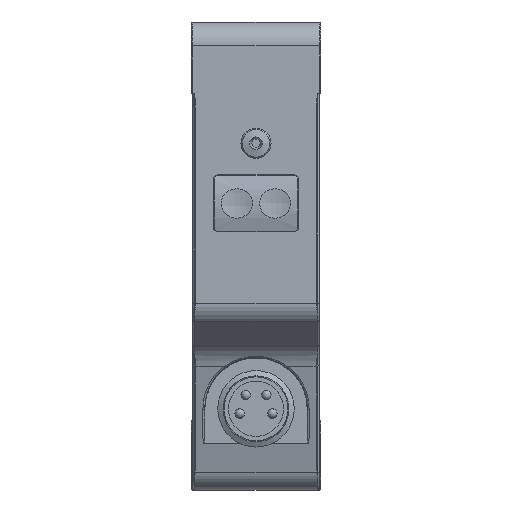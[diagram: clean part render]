
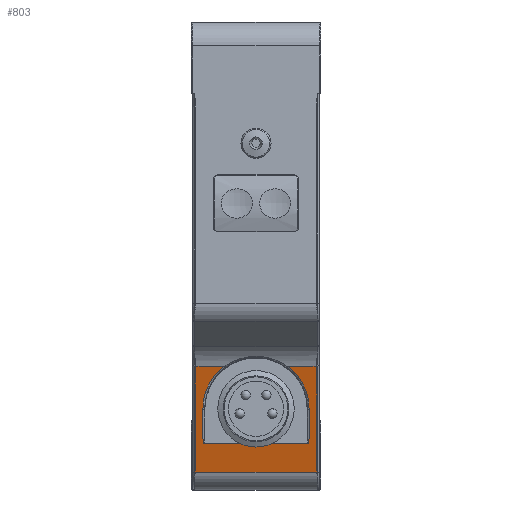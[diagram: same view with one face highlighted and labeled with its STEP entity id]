
A CAD part, left-side view. The second image highlights one B-rep face of the part: STEP entity #803.
In plain terms, the highlighted planar face has unit normal (-0.966, 0, -0.259).
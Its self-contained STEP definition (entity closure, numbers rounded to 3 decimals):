
#803 = ADVANCED_FACE( '', ( #1657 ), #1658, .T. );
#1657 = FACE_OUTER_BOUND( '', #3178, .T. );
#1658 = PLANE( '', #3179 );
#3178 = EDGE_LOOP( '', ( #5479, #5480, #5481, #5482, #5483, #5484, #5485, #5486, #5487, #5488 ) );
#3179 = AXIS2_PLACEMENT_3D( '', #5489, #5490, #5491 );
#5479 = ORIENTED_EDGE( '', *, *, #7010, .T. );
#5480 = ORIENTED_EDGE( '', *, *, #7011, .T. );
#5481 = ORIENTED_EDGE( '', *, *, #6869, .T. );
#5482 = ORIENTED_EDGE( '', *, *, #7012, .T. );
#5483 = ORIENTED_EDGE( '', *, *, #7013, .T. );
#5484 = ORIENTED_EDGE( '', *, *, #6938, .T. );
#5485 = ORIENTED_EDGE( '', *, *, #6870, .T. );
#5486 = ORIENTED_EDGE( '', *, *, #6670, .T. );
#5487 = ORIENTED_EDGE( '', *, *, #6343, .T. );
#5488 = ORIENTED_EDGE( '', *, *, #6235, .T. );
#5489 = CARTESIAN_POINT( '', ( -31.5, -58.085, -13.6 ) );
#5490 = DIRECTION( '', ( -0.966, 0., -0.259 ) );
#5491 = DIRECTION( '', ( 0.259, 0., -0.966 ) );
#6235 = EDGE_CURVE( '', #7316, #7314, #7317, .T. );
#6343 = EDGE_CURVE( '', #7498, #7316, #7499, .T. );
#6670 = EDGE_CURVE( '', #7640, #7498, #8014, .F. );
#6869 = EDGE_CURVE( '', #7642, #7812, #8291, .T. );
#6870 = EDGE_CURVE( '', #8292, #7640, #8293, .T. );
#6938 = EDGE_CURVE( '', #8239, #8292, #8379, .T. );
#7010 = EDGE_CURVE( '', #7314, #8465, #8466, .T. );
#7011 = EDGE_CURVE( '', #8465, #7642, #8467, .F. );
#7012 = EDGE_CURVE( '', #7812, #7579, #8468, .T. );
#7013 = EDGE_CURVE( '', #7579, #8239, #8469, .F. );
#7314 = VERTEX_POINT( '', #8846 );
#7316 = VERTEX_POINT( '', #8848 );
#7317 = LINE( '', #8849, #8850 );
#7498 = VERTEX_POINT( '', #9126 );
#7499 = LINE( '', #9127, #9128 );
#7579 = VERTEX_POINT( '', #9361 );
#7640 = VERTEX_POINT( '', #9444 );
#7642 = VERTEX_POINT( '', #9446 );
#7812 = VERTEX_POINT( '', #9816 );
#8014 = ELLIPSE( '', #10167, 5.76, 5.564 );
#8239 = VERTEX_POINT( '', #10476 );
#8291 = LINE( '', #10539, #10540 );
#8292 = VERTEX_POINT( '', #10541 );
#8293 = LINE( '', #10542, #10543 );
#8379 = LINE( '', #10649, #10650 );
#8465 = VERTEX_POINT( '', #10812 );
#8466 = LINE( '', #10813, #10814 );
#8467 = ELLIPSE( '', #10815, 5.76, 5.564 );
#8468 = LINE( '', #10816, #10817 );
#8469 = LINE( '', #10818, #10819 );
#8846 = CARTESIAN_POINT( '', ( -32.793, 5.547, -8.774 ) );
#8848 = CARTESIAN_POINT( '', ( -32.793, -5.547, -8.774 ) );
#8849 = CARTESIAN_POINT( '', ( -32.793, -58.085, -8.774 ) );
#8850 = VECTOR( '', #11137, 1000. );
#9126 = CARTESIAN_POINT( '', ( -33.764, -5.563, -5.152 ) );
#9127 = CARTESIAN_POINT( '', ( -31.561, -5.525, -13.371 ) );
#9128 = VECTOR( '', #11313, 1000. );
#9361 = CARTESIAN_POINT( '', ( -31.996, 6.4, -11.747 ) );
#9444 = CARTESIAN_POINT( '', ( -34.978, -3.261, -0.618 ) );
#9446 = CARTESIAN_POINT( '', ( -34.978, 3.261, -0.618 ) );
#9816 = CARTESIAN_POINT( '', ( -34.978, 6.4, -0.618 ) );
#10167 = AXIS2_PLACEMENT_3D( '', #11744, #11745, #11746 );
#10476 = CARTESIAN_POINT( '', ( -31.996, -6.4, -11.747 ) );
#10539 = CARTESIAN_POINT( '', ( -34.978, 6.8, -0.618 ) );
#10540 = VECTOR( '', #11996, 1000. );
#10541 = CARTESIAN_POINT( '', ( -34.978, -6.4, -0.618 ) );
#10542 = CARTESIAN_POINT( '', ( -34.978, 6.8, -0.618 ) );
#10543 = VECTOR( '', #11997, 1000. );
#10649 = CARTESIAN_POINT( '', ( -34.978, -6.4, -0.618 ) );
#10650 = VECTOR( '', #12090, 1000. );
#10812 = CARTESIAN_POINT( '', ( -33.764, 5.563, -5.152 ) );
#10813 = CARTESIAN_POINT( '', ( -31.426, 5.523, -13.878 ) );
#10814 = VECTOR( '', #12167, 1000. );
#10815 = AXIS2_PLACEMENT_3D( '', #12168, #12169, #12170 );
#10816 = CARTESIAN_POINT( '', ( -31.996, 6.4, -11.747 ) );
#10817 = VECTOR( '', #12171, 1000. );
#10818 = CARTESIAN_POINT( '', ( -31.996, -58.085, -11.747 ) );
#10819 = VECTOR( '', #12172, 1000. );
#11137 = DIRECTION( '', ( 0., 1., 0. ) );
#11313 = DIRECTION( '', ( 0.259, 0.005, -0.966 ) );
#11744 = CARTESIAN_POINT( '', ( -33.771, 0., -5.126 ) );
#11745 = DIRECTION( '', ( -0.966, 0., -0.259 ) );
#11746 = DIRECTION( '', ( -0.259, 0., 0.966 ) );
#11996 = DIRECTION( '', ( 0., 1., 0. ) );
#11997 = DIRECTION( '', ( 0., 1., 0. ) );
#12090 = DIRECTION( '', ( -0.259, 0., 0.966 ) );
#12167 = DIRECTION( '', ( -0.259, 0.005, 0.966 ) );
#12168 = CARTESIAN_POINT( '', ( -33.771, 0., -5.126 ) );
#12169 = DIRECTION( '', ( -0.966, 0., -0.259 ) );
#12170 = DIRECTION( '', ( -0.259, 0., 0.966 ) );
#12171 = DIRECTION( '', ( 0.259, 0., -0.966 ) );
#12172 = DIRECTION( '', ( 0., 1., 0. ) );
